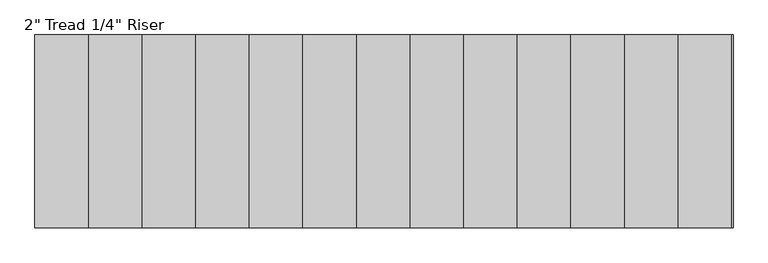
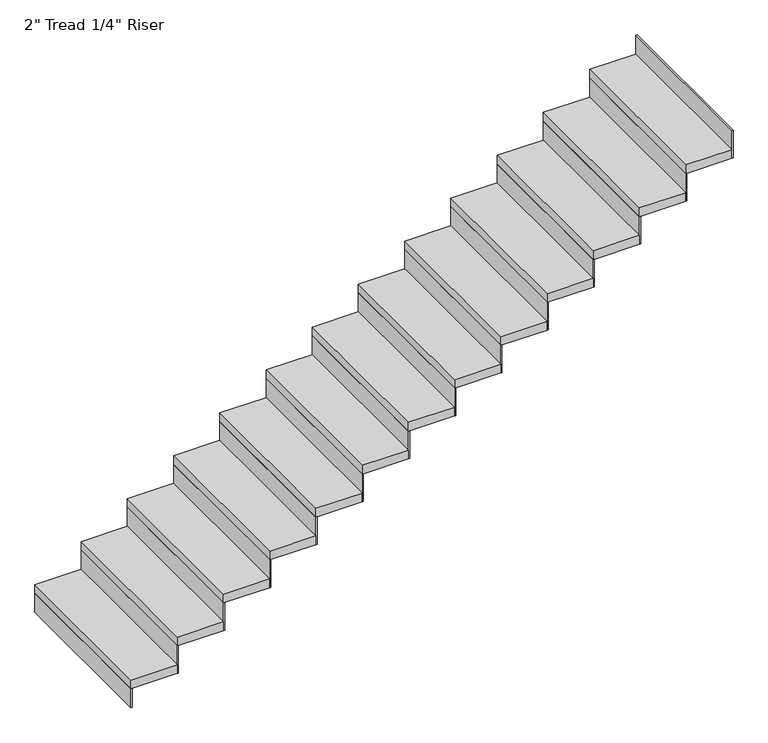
"""IFC4 building model written with IfcOpenShell, lengths in millimetres: stair flight geometry."""

from ifc_helpers import new_model, si_unit, frame, origin, origin_with_axes, place, context, project, spatial, polyline, outline, extrude, source, transform, mapped, element, save


def stair_flight_35e525fe(model_context):
    return source(origin(), model_context, "Body", "SweptSolid", [
        extrude(outline(polyline([(85237.6050425, -35593.481782), (85231.2550425, -35593.481782), (85231.2550425, -34679.081782), (85237.6050425, -34679.081782), (85237.6050425, -35593.481782)])), origin_with_axes(), (0.0, 0.0, 1.0), 109.6210526),
        extrude(outline(polyline([(85485.2550425, -34679.081782), (85485.2550425, -35593.481782), (85231.2550425, -35593.481782), (85231.2550425, -34679.081782), (85485.2550425, -34679.081782)])), frame((0.0, 0.0, 109.6210526), z_axis=(0.0, 0.0, 1.0), x_axis=(1.0, 0.0, 0.0)), (0.0, 0.0, 1.0), 50.8),
        extrude(outline(polyline([(85491.6050425, -35593.481782), (85485.2550425, -35593.481782), (85485.2550425, -34679.081782), (85491.6050425, -34679.081782), (85491.6050425, -35593.481782)])), frame((0.0, 0.0, 109.6210526), z_axis=(0.0, 0.0, 1.0), x_axis=(1.0, 0.0, 0.0)), (0.0, 0.0, 1.0), 160.4210526),
        extrude(outline(polyline([(85739.2550425, -34679.081782), (85739.2550425, -35593.481782), (85485.2550425, -35593.481782), (85485.2550425, -34679.081782), (85739.2550425, -34679.081782)])), frame((0.0, 0.0, 270.0421053), z_axis=(0.0, 0.0, 1.0), x_axis=(1.0, 0.0, 0.0)), (0.0, 0.0, 1.0), 50.8),
        extrude(outline(polyline([(85745.6050425, -35593.481782), (85739.2550425, -35593.481782), (85739.2550425, -34679.081782), (85745.6050425, -34679.081782), (85745.6050425, -35593.481782)])), frame((0.0, 0.0, 270.0421053), z_axis=(0.0, 0.0, 1.0), x_axis=(1.0, 0.0, 0.0)), (0.0, 0.0, 1.0), 160.4210526),
        extrude(outline(polyline([(85993.2550425, -34679.081782), (85993.2550425, -35593.481782), (85739.2550425, -35593.481782), (85739.2550425, -34679.081782), (85993.2550425, -34679.081782)])), frame((0.0, 0.0, 430.4631579), z_axis=(0.0, 0.0, 1.0), x_axis=(1.0, 0.0, 0.0)), (0.0, 0.0, 1.0), 50.8),
        extrude(outline(polyline([(85999.6050425, -35593.481782), (85993.2550425, -35593.481782), (85993.2550425, -34679.081782), (85999.6050425, -34679.081782), (85999.6050425, -35593.481782)])), frame((0.0, 0.0, 430.4631579), z_axis=(0.0, 0.0, 1.0), x_axis=(1.0, 0.0, 0.0)), (0.0, 0.0, 1.0), 160.4210526),
        extrude(outline(polyline([(86247.2550425, -34679.081782), (86247.2550425, -35593.481782), (85993.2550425, -35593.481782), (85993.2550425, -34679.081782), (86247.2550425, -34679.081782)])), frame((0.0, 0.0, 590.8842105), z_axis=(0.0, 0.0, 1.0), x_axis=(1.0, 0.0, 0.0)), (0.0, 0.0, 1.0), 50.8),
        extrude(outline(polyline([(86253.6050425, -35593.481782), (86247.2550425, -35593.481782), (86247.2550425, -34679.081782), (86253.6050425, -34679.081782), (86253.6050425, -35593.481782)])), frame((0.0, 0.0, 590.8842105), z_axis=(0.0, 0.0, 1.0), x_axis=(1.0, 0.0, 0.0)), (0.0, 0.0, 1.0), 160.4210526),
        extrude(outline(polyline([(86501.2550425, -34679.081782), (86501.2550425, -35593.481782), (86247.2550425, -35593.481782), (86247.2550425, -34679.081782), (86501.2550425, -34679.081782)])), frame((0.0, 0.0, 751.3052632), z_axis=(0.0, 0.0, 1.0), x_axis=(1.0, 0.0, 0.0)), (0.0, 0.0, 1.0), 50.8),
        extrude(outline(polyline([(86507.6050425, -35593.481782), (86501.2550425, -35593.481782), (86501.2550425, -34679.081782), (86507.6050425, -34679.081782), (86507.6050425, -35593.481782)])), frame((0.0, 0.0, 751.3052632), z_axis=(0.0, 0.0, 1.0), x_axis=(1.0, 0.0, 0.0)), (0.0, 0.0, 1.0), 160.4210526),
        extrude(outline(polyline([(86755.2550425, -34679.081782), (86755.2550425, -35593.481782), (86501.2550425, -35593.481782), (86501.2550425, -34679.081782), (86755.2550425, -34679.081782)])), frame((0.0, 0.0, 911.7263158), z_axis=(0.0, 0.0, 1.0), x_axis=(1.0, 0.0, 0.0)), (0.0, 0.0, 1.0), 50.8),
        extrude(outline(polyline([(86761.6050425, -35593.481782), (86755.2550425, -35593.481782), (86755.2550425, -34679.081782), (86761.6050425, -34679.081782), (86761.6050425, -35593.481782)])), frame((0.0, 0.0, 911.7263158), z_axis=(0.0, 0.0, 1.0), x_axis=(1.0, 0.0, 0.0)), (0.0, 0.0, 1.0), 160.4210526),
        extrude(outline(polyline([(87009.2550425, -34679.081782), (87009.2550425, -35593.481782), (86755.2550425, -35593.481782), (86755.2550425, -34679.081782), (87009.2550425, -34679.081782)])), frame((0.0, 0.0, 1072.1473684), z_axis=(0.0, 0.0, 1.0), x_axis=(1.0, 0.0, 0.0)), (0.0, 0.0, 1.0), 50.8),
        extrude(outline(polyline([(87015.6050425, -35593.481782), (87009.2550425, -35593.481782), (87009.2550425, -34679.081782), (87015.6050425, -34679.081782), (87015.6050425, -35593.481782)])), frame((0.0, 0.0, 1072.1473684), z_axis=(0.0, 0.0, 1.0), x_axis=(1.0, 0.0, 0.0)), (0.0, 0.0, 1.0), 160.4210526),
        extrude(outline(polyline([(87263.2550425, -34679.081782), (87263.2550425, -35593.481782), (87009.2550425, -35593.481782), (87009.2550425, -34679.081782), (87263.2550425, -34679.081782)])), frame((0.0, 0.0, 1232.5684211), z_axis=(0.0, 0.0, 1.0), x_axis=(1.0, 0.0, 0.0)), (0.0, 0.0, 1.0), 50.8),
        extrude(outline(polyline([(87269.6050425, -35593.481782), (87263.2550425, -35593.481782), (87263.2550425, -34679.081782), (87269.6050425, -34679.081782), (87269.6050425, -35593.481782)])), frame((0.0, 0.0, 1232.5684211), z_axis=(0.0, 0.0, 1.0), x_axis=(1.0, 0.0, 0.0)), (0.0, 0.0, 1.0), 160.4210526),
        extrude(outline(polyline([(87517.2550425, -34679.081782), (87517.2550425, -35593.481782), (87263.2550425, -35593.481782), (87263.2550425, -34679.081782), (87517.2550425, -34679.081782)])), frame((0.0, 0.0, 1392.9894737), z_axis=(0.0, 0.0, 1.0), x_axis=(1.0, 0.0, 0.0)), (0.0, 0.0, 1.0), 50.8),
        extrude(outline(polyline([(87523.6050425, -35593.481782), (87517.2550425, -35593.481782), (87517.2550425, -34679.081782), (87523.6050425, -34679.081782), (87523.6050425, -35593.481782)])), frame((0.0, 0.0, 1392.9894737), z_axis=(0.0, 0.0, 1.0), x_axis=(1.0, 0.0, 0.0)), (0.0, 0.0, 1.0), 160.4210526),
        extrude(outline(polyline([(87771.2550425, -34679.081782), (87771.2550425, -35593.481782), (87517.2550425, -35593.481782), (87517.2550425, -34679.081782), (87771.2550425, -34679.081782)])), frame((0.0, 0.0, 1553.4105263), z_axis=(0.0, 0.0, 1.0), x_axis=(1.0, 0.0, 0.0)), (0.0, 0.0, 1.0), 50.8),
        extrude(outline(polyline([(87777.6050425, -35593.481782), (87771.2550425, -35593.481782), (87771.2550425, -34679.081782), (87777.6050425, -34679.081782), (87777.6050425, -35593.481782)])), frame((0.0, 0.0, 1553.4105263), z_axis=(0.0, 0.0, 1.0), x_axis=(1.0, 0.0, 0.0)), (0.0, 0.0, 1.0), 160.4210526),
        extrude(outline(polyline([(88025.2550425, -34679.081782), (88025.2550425, -35593.481782), (87771.2550425, -35593.481782), (87771.2550425, -34679.081782), (88025.2550425, -34679.081782)])), frame((0.0, 0.0, 1713.8315789), z_axis=(0.0, 0.0, 1.0), x_axis=(1.0, 0.0, 0.0)), (0.0, 0.0, 1.0), 50.8),
        extrude(outline(polyline([(88031.6050425, -35593.481782), (88025.2550425, -35593.481782), (88025.2550425, -34679.081782), (88031.6050425, -34679.081782), (88031.6050425, -35593.481782)])), frame((0.0, 0.0, 1713.8315789), z_axis=(0.0, 0.0, 1.0), x_axis=(1.0, 0.0, 0.0)), (0.0, 0.0, 1.0), 160.4210526),
        extrude(outline(polyline([(88279.2550425, -34679.081782), (88279.2550425, -35593.481782), (88025.2550425, -35593.481782), (88025.2550425, -34679.081782), (88279.2550425, -34679.081782)])), frame((0.0, 0.0, 1874.2526316), z_axis=(0.0, 0.0, 1.0), x_axis=(1.0, 0.0, 0.0)), (0.0, 0.0, 1.0), 50.8),
        extrude(outline(polyline([(88285.6050425, -35593.481782), (88279.2550425, -35593.481782), (88279.2550425, -34679.081782), (88285.6050425, -34679.081782), (88285.6050425, -35593.481782)])), frame((0.0, 0.0, 1874.2526316), z_axis=(0.0, 0.0, 1.0), x_axis=(1.0, 0.0, 0.0)), (0.0, 0.0, 1.0), 160.4210526),
        extrude(outline(polyline([(88539.6050425, -35593.481782), (88533.2550425, -35593.481782), (88533.2550425, -34679.081782), (88539.6050425, -34679.081782), (88539.6050425, -35593.481782)])), frame((0.0, 0.0, 2034.6736842), z_axis=(0.0, 0.0, 1.0), x_axis=(1.0, 0.0, 0.0)), (0.0, 0.0, 1.0), 160.4210526),
        extrude(outline(polyline([(88533.2550425, -34679.081782), (88533.2550425, -35593.481782), (88279.2550425, -35593.481782), (88279.2550425, -34679.081782), (88533.2550425, -34679.081782)])), frame((0.0, 0.0, 2034.6736842), z_axis=(0.0, 0.0, 1.0), x_axis=(1.0, 0.0, 0.0)), (0.0, 0.0, 1.0), 50.8),
    ])


if __name__ == "__main__":
    model = new_model("IFC4")
    model_context = context("Model", 3, world=origin())
    ifc_project = project(units=[si_unit("LENGTHUNIT", "METRE", prefix="MILLI")], contexts=[model_context])
    site = spatial("IfcSite", under=ifc_project)
    building = spatial("IfcBuilding", under=site)
    placement = place(None, origin())
    stair_flight_shape = stair_flight_35e525fe(model_context)
    element("IfcStairFlight", 1, ObjectType="2\" Tread 1/4\" Riser", at=placement, inside=building, context=model_context, shape_type="MappedRepresentation", body=[
        mapped(stair_flight_shape, transform((0.0, 0.0, 0.0), x_axis=(1.0, 0.0, 0.0), y_axis=(0.0, 1.0, 0.0), z_axis=(0.0, 0.0, 1.0))),
    ])
    save(model, "model.ifc")
